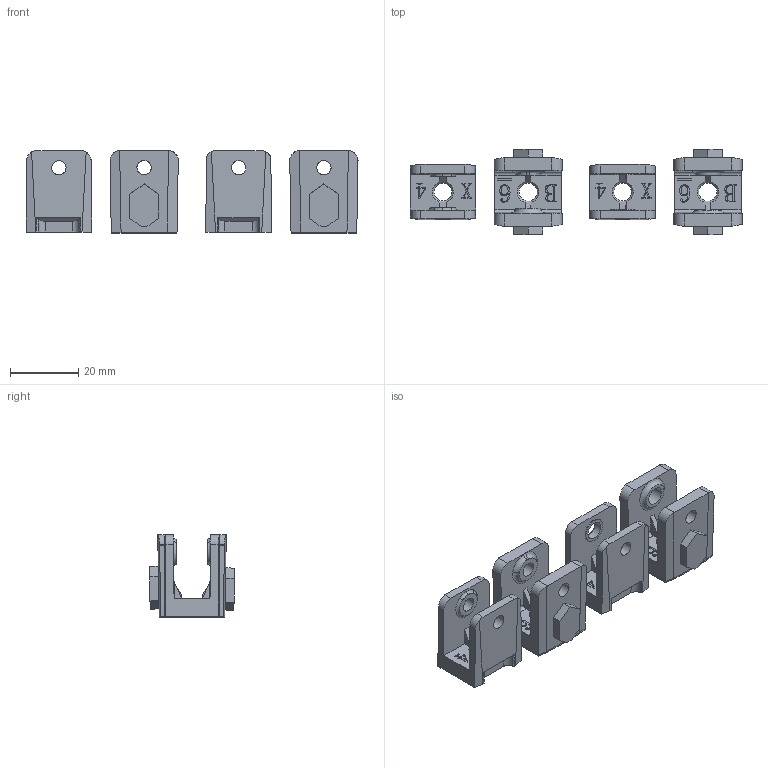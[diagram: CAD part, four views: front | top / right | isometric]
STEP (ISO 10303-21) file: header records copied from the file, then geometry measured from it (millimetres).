
FILE_DESCRIPTION(('HOOPS Exchange Step'),'2;1');
FILE_NAME('C:\Users\Administrator\AppData\Local\Packages\Shapr3D.Shapr3DBeta_dvv5p1vgwv6mp\TempState\export\temp_export','2023-08-31T20:37:10+17:00',('Administrator'),('Shapr3D Limited'),'HOOPS Exchange 2023.2','Shapr3D','Authorized');
FILE_SCHEMA( ('AUTOMOTIVE_DESIGN { 1 0 10303 214 1 1 1 1 }') );
Length unit declared in the file: millimetre
Products named in the file (3): X_pulley_mount; Y_pulley_mount; root
Assembly tree (2 placements, depth 2):
  root
    X_pulley_mount
    Y_pulley_mount
Bounding box: 96.96 x 24.9 x 24.2 mm (x, y, z)
Volume: 16136.8 mm3; surface area: 11713.2 mm2
Topology: 4 solids, 4 shells, 480 faces, 1354 edges, 904 vertices
Faces by surface type: plane 310, bspline 109, cylinder 57, cone 4
Full cylindrical faces by diameter (mm): 4.2 x6, 5.2 x2, 5.3 x4, 7 x2
Entity records: 28371 total; most frequent: CARTESIAN_POINT 16424, ORIENTED_EDGE 2708, DIRECTION 2025, EDGE_CURVE 1354, VERTEX_POINT 904, VECTOR 897, LINE 897, AXIS2_PLACEMENT_3D 564
